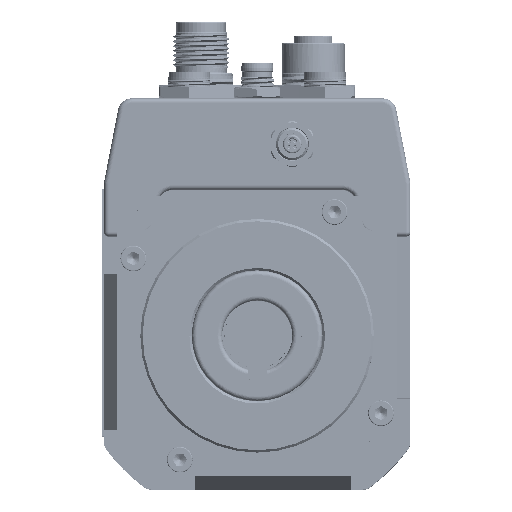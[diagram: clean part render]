
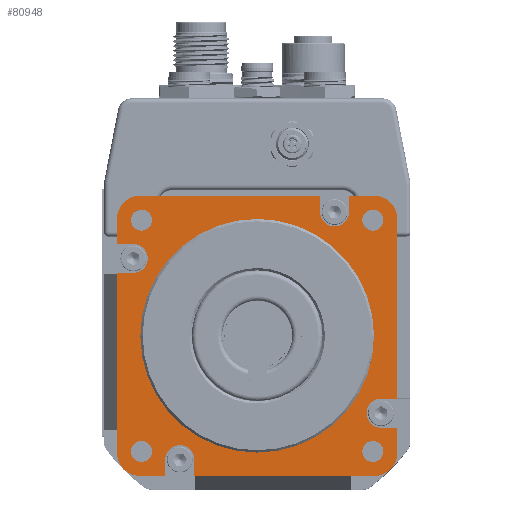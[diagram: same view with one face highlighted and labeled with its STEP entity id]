
A CAD part, top view. The second image highlights one B-rep face of the part: STEP entity #80948.
In plain terms, the highlighted planar face has unit normal (0, 0, 1).
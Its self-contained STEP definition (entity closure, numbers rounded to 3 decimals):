
#5925=PLANE('',#114145);
#10645=LINE('',#180078,#16588);
#10648=LINE('',#180083,#16591);
#10664=LINE('',#180127,#16607);
#10668=LINE('',#180135,#16611);
#10684=LINE('',#180179,#16627);
#10688=LINE('',#180187,#16631);
#10704=LINE('',#180231,#16647);
#10708=LINE('',#180239,#16651);
#10720=LINE('',#180283,#16663);
#10721=LINE('',#180285,#16664);
#10722=LINE('',#180289,#16665);
#10723=LINE('',#180291,#16666);
#10724=LINE('',#180295,#16667);
#10725=LINE('',#180296,#16668);
#10726=LINE('',#180300,#16669);
#10727=LINE('',#180302,#16670);
#16588=VECTOR('',#130480,1000.);
#16591=VECTOR('',#130483,1000.);
#16607=VECTOR('',#130523,1000.);
#16611=VECTOR('',#130527,1000.);
#16627=VECTOR('',#130567,1000.);
#16631=VECTOR('',#130571,1000.);
#16647=VECTOR('',#130611,1000.);
#16651=VECTOR('',#130615,1000.);
#16663=VECTOR('',#130663,1000.);
#16664=VECTOR('',#130666,1000.);
#16665=VECTOR('',#130669,1000.);
#16666=VECTOR('',#130672,1000.);
#16667=VECTOR('',#130675,1000.);
#16668=VECTOR('',#130676,1000.);
#16669=VECTOR('',#130679,1000.);
#16670=VECTOR('',#130682,1000.);
#35790=ORIENTED_EDGE('',*,*,#50894,.F.);
#35791=ORIENTED_EDGE('',*,*,#50895,.F.);
#35792=ORIENTED_EDGE('',*,*,#50843,.T.);
#35793=ORIENTED_EDGE('',*,*,#50896,.T.);
#35794=ORIENTED_EDGE('',*,*,#50821,.T.);
#35795=ORIENTED_EDGE('',*,*,#50897,.T.);
#35796=ORIENTED_EDGE('',*,*,#50898,.F.);
#35797=ORIENTED_EDGE('',*,*,#50899,.F.);
#35798=ORIENTED_EDGE('',*,*,#50817,.T.);
#35799=ORIENTED_EDGE('',*,*,#50900,.T.);
#35800=ORIENTED_EDGE('',*,*,#50795,.T.);
#35801=ORIENTED_EDGE('',*,*,#50901,.T.);
#35802=ORIENTED_EDGE('',*,*,#50902,.F.);
#35803=ORIENTED_EDGE('',*,*,#50903,.F.);
#35804=ORIENTED_EDGE('',*,*,#50792,.T.);
#35805=ORIENTED_EDGE('',*,*,#50893,.T.);
#35806=ORIENTED_EDGE('',*,*,#50873,.T.);
#35807=ORIENTED_EDGE('',*,*,#50904,.T.);
#35808=ORIENTED_EDGE('',*,*,#50905,.F.);
#35809=ORIENTED_EDGE('',*,*,#50906,.F.);
#35810=ORIENTED_EDGE('',*,*,#50869,.T.);
#35811=ORIENTED_EDGE('',*,*,#50907,.T.);
#35812=ORIENTED_EDGE('',*,*,#50847,.T.);
#35813=ORIENTED_EDGE('',*,*,#50908,.T.);
#35814=ORIENTED_EDGE('',*,*,#50909,.F.);
#35815=ORIENTED_EDGE('',*,*,#50910,.T.);
#35816=ORIENTED_EDGE('',*,*,#50911,.T.);
#35817=ORIENTED_EDGE('',*,*,#50912,.T.);
#35818=ORIENTED_EDGE('',*,*,#50913,.T.);
#50792=EDGE_CURVE('',#59803,#59802,#10645,.T.);
#50795=EDGE_CURVE('',#59805,#59804,#10648,.T.);
#50817=EDGE_CURVE('',#59821,#59820,#10664,.T.);
#50821=EDGE_CURVE('',#59825,#59824,#10668,.T.);
#50843=EDGE_CURVE('',#59841,#59840,#10684,.T.);
#50847=EDGE_CURVE('',#59845,#59844,#10688,.T.);
#50869=EDGE_CURVE('',#59861,#59860,#10704,.T.);
#50873=EDGE_CURVE('',#59865,#59864,#10708,.T.);
#50893=EDGE_CURVE('',#59802,#59865,#64031,.T.);
#50894=EDGE_CURVE('',#59877,#59878,#64032,.T.);
#50895=EDGE_CURVE('',#59841,#59877,#10720,.T.);
#50896=EDGE_CURVE('',#59840,#59825,#64033,.T.);
#50897=EDGE_CURVE('',#59824,#59879,#10721,.T.);
#50898=EDGE_CURVE('',#59880,#59879,#64034,.T.);
#50899=EDGE_CURVE('',#59821,#59880,#10722,.T.);
#50900=EDGE_CURVE('',#59820,#59805,#64035,.T.);
#50901=EDGE_CURVE('',#59804,#59881,#10723,.T.);
#50902=EDGE_CURVE('',#59882,#59881,#64036,.T.);
#50903=EDGE_CURVE('',#59803,#59882,#10724,.T.);
#50904=EDGE_CURVE('',#59864,#59883,#10725,.T.);
#50905=EDGE_CURVE('',#59884,#59883,#64037,.T.);
#50906=EDGE_CURVE('',#59861,#59884,#10726,.T.);
#50907=EDGE_CURVE('',#59860,#59845,#64038,.T.);
#50908=EDGE_CURVE('',#59844,#59878,#10727,.T.);
#50909=EDGE_CURVE('',#59885,#59885,#64039,.T.);
#50910=EDGE_CURVE('',#59886,#59886,#64040,.T.);
#50911=EDGE_CURVE('',#59887,#59887,#64041,.T.);
#50912=EDGE_CURVE('',#59888,#59888,#64042,.T.);
#50913=EDGE_CURVE('',#59889,#59889,#64043,.T.);
#59802=VERTEX_POINT('',#180077);
#59803=VERTEX_POINT('',#180079);
#59804=VERTEX_POINT('',#180082);
#59805=VERTEX_POINT('',#180084);
#59820=VERTEX_POINT('',#180126);
#59821=VERTEX_POINT('',#180128);
#59824=VERTEX_POINT('',#180134);
#59825=VERTEX_POINT('',#180136);
#59840=VERTEX_POINT('',#180178);
#59841=VERTEX_POINT('',#180180);
#59844=VERTEX_POINT('',#180186);
#59845=VERTEX_POINT('',#180188);
#59860=VERTEX_POINT('',#180230);
#59861=VERTEX_POINT('',#180232);
#59864=VERTEX_POINT('',#180238);
#59865=VERTEX_POINT('',#180240);
#59877=VERTEX_POINT('',#180281);
#59878=VERTEX_POINT('',#180282);
#59879=VERTEX_POINT('',#180286);
#59880=VERTEX_POINT('',#180288);
#59881=VERTEX_POINT('',#180292);
#59882=VERTEX_POINT('',#180294);
#59883=VERTEX_POINT('',#180297);
#59884=VERTEX_POINT('',#180299);
#59885=VERTEX_POINT('',#180304);
#59886=VERTEX_POINT('',#180306);
#59887=VERTEX_POINT('',#180308);
#59888=VERTEX_POINT('',#180310);
#59889=VERTEX_POINT('',#180312);
#64031=CIRCLE('',#114144,5.);
#64032=CIRCLE('',#114146,3.1);
#64033=CIRCLE('',#114147,5.);
#64034=CIRCLE('',#114148,3.1);
#64035=CIRCLE('',#114149,5.);
#64036=CIRCLE('',#114150,3.1);
#64037=CIRCLE('',#114151,3.1);
#64038=CIRCLE('',#114152,5.);
#64039=CIRCLE('',#114153,25.);
#64040=CIRCLE('',#114154,2.25);
#64041=CIRCLE('',#114155,2.25);
#64042=CIRCLE('',#114156,2.25);
#64043=CIRCLE('',#114157,2.25);
#68877=EDGE_LOOP('',(#35790,#35791,#35792,#35793,#35794,#35795,#35796,#35797,
#35798,#35799,#35800,#35801,#35802,#35803,#35804,#35805,#35806,#35807,#35808,
#35809,#35810,#35811,#35812,#35813));
#68878=EDGE_LOOP('',(#35814));
#68879=EDGE_LOOP('',(#35815));
#68880=EDGE_LOOP('',(#35816));
#68881=EDGE_LOOP('',(#35817));
#68882=EDGE_LOOP('',(#35818));
#74518=FACE_BOUND('',#68877,.T.);
#74519=FACE_BOUND('',#68878,.T.);
#74520=FACE_BOUND('',#68879,.T.);
#74521=FACE_BOUND('',#68880,.T.);
#74522=FACE_BOUND('',#68881,.T.);
#74523=FACE_BOUND('',#68882,.T.);
#80948=ADVANCED_FACE('',(#74518,#74519,#74520,#74521,#74522,#74523),#5925,
 .T.);
#114144=AXIS2_PLACEMENT_3D('',#180278,#130657,#130658);
#114145=AXIS2_PLACEMENT_3D('',#180279,#130659,#130660);
#114146=AXIS2_PLACEMENT_3D('',#180280,#130661,#130662);
#114147=AXIS2_PLACEMENT_3D('',#180284,#130664,#130665);
#114148=AXIS2_PLACEMENT_3D('',#180287,#130667,#130668);
#114149=AXIS2_PLACEMENT_3D('',#180290,#130670,#130671);
#114150=AXIS2_PLACEMENT_3D('',#180293,#130673,#130674);
#114151=AXIS2_PLACEMENT_3D('',#180298,#130677,#130678);
#114152=AXIS2_PLACEMENT_3D('',#180301,#130680,#130681);
#114153=AXIS2_PLACEMENT_3D('',#180303,#130683,#130684);
#114154=AXIS2_PLACEMENT_3D('',#180305,#130685,#130686);
#114155=AXIS2_PLACEMENT_3D('',#180307,#130687,#130688);
#114156=AXIS2_PLACEMENT_3D('',#180309,#130689,#130690);
#114157=AXIS2_PLACEMENT_3D('',#180311,#130691,#130692);
#130480=DIRECTION('',(-1.,0.,0.));
#130483=DIRECTION('',(-1.,0.,0.));
#130523=DIRECTION('',(0.,1.,0.));
#130527=DIRECTION('',(0.,1.,0.));
#130567=DIRECTION('',(1.,0.,0.));
#130571=DIRECTION('',(1.,0.,0.));
#130611=DIRECTION('',(0.,-1.,0.));
#130615=DIRECTION('',(0.,-1.,0.));
#130657=DIRECTION('',(0.,0.,1.));
#130658=DIRECTION('',(0.,1.,0.));
#130659=DIRECTION('',(0.,0.,1.));
#130660=DIRECTION('',(0.,-1.,0.));
#130661=DIRECTION('',(0.,0.,1.));
#130662=DIRECTION('',(1.,0.,0.));
#130663=DIRECTION('',(0.,1.,0.));
#130664=DIRECTION('',(0.,0.,1.));
#130665=DIRECTION('',(0.,-1.,0.));
#130666=DIRECTION('',(-1.,0.,0.));
#130667=DIRECTION('',(0.,0.,1.));
#130668=DIRECTION('',(0.,1.,0.));
#130669=DIRECTION('',(-1.,0.,0.));
#130670=DIRECTION('',(0.,0.,1.));
#130671=DIRECTION('',(1.,0.,0.));
#130672=DIRECTION('',(0.,-1.,0.));
#130673=DIRECTION('',(0.,0.,1.));
#130674=DIRECTION('',(-1.,0.,0.));
#130675=DIRECTION('',(0.,-1.,0.));
#130676=DIRECTION('',(1.,0.,0.));
#130677=DIRECTION('',(0.,0.,1.));
#130678=DIRECTION('',(0.,-1.,0.));
#130679=DIRECTION('',(1.,0.,0.));
#130680=DIRECTION('',(0.,0.,1.));
#130681=DIRECTION('',(-1.,0.,0.));
#130682=DIRECTION('',(0.,1.,0.));
#130683=DIRECTION('',(0.,0.,1.));
#130684=DIRECTION('',(0.,-1.,0.));
#130685=DIRECTION('',(0.,0.,-1.));
#130686=DIRECTION('',(1.,0.,0.));
#130687=DIRECTION('',(0.,0.,-1.));
#130688=DIRECTION('',(0.,1.,0.));
#130689=DIRECTION('',(0.,0.,-1.));
#130690=DIRECTION('',(-1.,0.,0.));
#130691=DIRECTION('',(0.,0.,-1.));
#130692=DIRECTION('',(0.,-1.,0.));
#180077=CARTESIAN_POINT('',(-25.,30.,55.));
#180078=CARTESIAN_POINT('',(13.46,30.,55.));
#180079=CARTESIAN_POINT('',(13.46,30.,55.));
#180082=CARTESIAN_POINT('',(19.66,30.,55.));
#180083=CARTESIAN_POINT('',(25.,30.,55.));
#180084=CARTESIAN_POINT('',(25.,30.,55.));
#180126=CARTESIAN_POINT('',(30.,25.,55.));
#180127=CARTESIAN_POINT('',(30.,-13.46,55.));
#180128=CARTESIAN_POINT('',(30.,-13.46,55.));
#180134=CARTESIAN_POINT('',(30.,-19.66,55.));
#180135=CARTESIAN_POINT('',(30.,-25.,55.));
#180136=CARTESIAN_POINT('',(30.,-25.,55.));
#180178=CARTESIAN_POINT('',(25.,-30.,55.));
#180179=CARTESIAN_POINT('',(-13.46,-30.,55.));
#180180=CARTESIAN_POINT('',(-13.46,-30.,55.));
#180186=CARTESIAN_POINT('',(-19.66,-30.,55.));
#180187=CARTESIAN_POINT('',(-25.,-30.,55.));
#180188=CARTESIAN_POINT('',(-25.,-30.,55.));
#180230=CARTESIAN_POINT('',(-30.,-25.,55.));
#180231=CARTESIAN_POINT('',(-30.,13.46,55.));
#180232=CARTESIAN_POINT('',(-30.,13.46,55.));
#180238=CARTESIAN_POINT('',(-30.,19.66,55.));
#180239=CARTESIAN_POINT('',(-30.,25.,55.));
#180240=CARTESIAN_POINT('',(-30.,25.,55.));
#180278=CARTESIAN_POINT('',(-25.,25.,55.));
#180279=CARTESIAN_POINT('',(0.,0.,55.));
#180280=CARTESIAN_POINT('',(-16.56,-26.502,55.));
#180281=CARTESIAN_POINT('',(-13.46,-26.502,55.));
#180282=CARTESIAN_POINT('',(-19.66,-26.502,55.));
#180283=CARTESIAN_POINT('',(-13.46,-30.,55.));
#180284=CARTESIAN_POINT('',(25.,-25.,55.));
#180285=CARTESIAN_POINT('',(30.,-19.66,55.));
#180286=CARTESIAN_POINT('',(26.502,-19.66,55.));
#180287=CARTESIAN_POINT('',(26.502,-16.56,55.));
#180288=CARTESIAN_POINT('',(26.502,-13.46,55.));
#180289=CARTESIAN_POINT('',(30.,-13.46,55.));
#180290=CARTESIAN_POINT('',(25.,25.,55.));
#180291=CARTESIAN_POINT('',(19.66,30.,55.));
#180292=CARTESIAN_POINT('',(19.66,26.502,55.));
#180293=CARTESIAN_POINT('',(16.56,26.502,55.));
#180294=CARTESIAN_POINT('',(13.46,26.502,55.));
#180295=CARTESIAN_POINT('',(13.46,30.,55.));
#180296=CARTESIAN_POINT('',(-30.,19.66,55.));
#180297=CARTESIAN_POINT('',(-26.502,19.66,55.));
#180298=CARTESIAN_POINT('',(-26.502,16.56,55.));
#180299=CARTESIAN_POINT('',(-26.502,13.46,55.));
#180300=CARTESIAN_POINT('',(-30.,13.46,55.));
#180301=CARTESIAN_POINT('',(-25.,-25.,55.));
#180302=CARTESIAN_POINT('',(-19.66,-30.,55.));
#180303=CARTESIAN_POINT('',(0.,0.,55.));
#180304=CARTESIAN_POINT('',(0.,-25.,55.));
#180305=CARTESIAN_POINT('',(24.749,24.749,55.));
#180306=CARTESIAN_POINT('',(26.999,24.749,55.));
#180307=CARTESIAN_POINT('',(-24.749,24.749,55.));
#180308=CARTESIAN_POINT('',(-24.749,26.999,55.));
#180309=CARTESIAN_POINT('',(-24.749,-24.749,55.));
#180310=CARTESIAN_POINT('',(-26.999,-24.749,55.));
#180311=CARTESIAN_POINT('',(24.749,-24.749,55.));
#180312=CARTESIAN_POINT('',(24.749,-26.999,55.));
